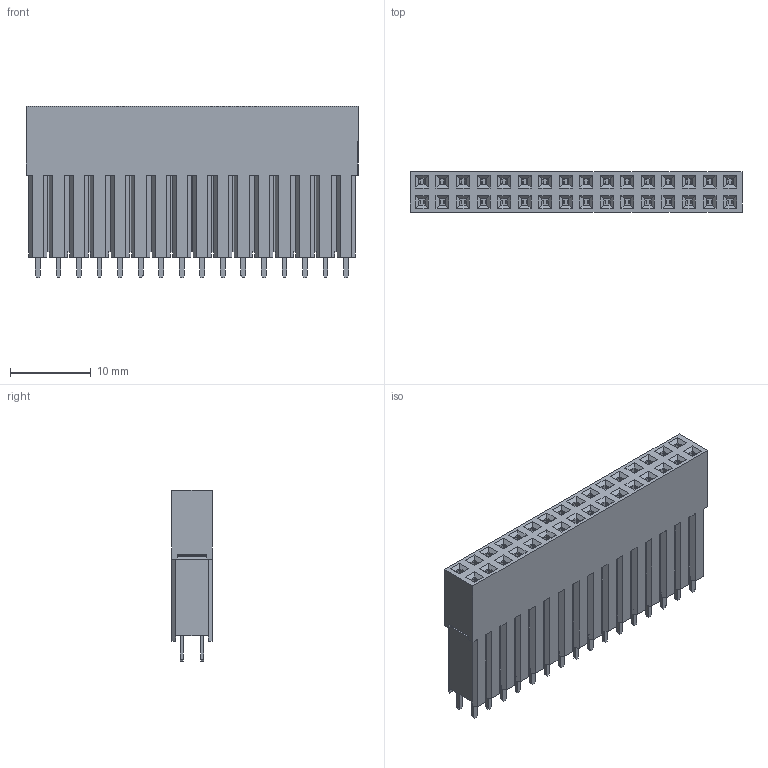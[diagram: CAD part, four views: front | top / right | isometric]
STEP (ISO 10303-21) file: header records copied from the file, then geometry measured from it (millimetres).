
FILE_DESCRIPTION (( 'STEP AP214' ), '1' );
FILE_NAME ('2047-2X16G00S12U.STEP', '2020-04-24T08:15:05', ( '' ), ( '' ), 'SwSTEP 2.0', 'SolidWorks 2011', '' );
FILE_SCHEMA (( 'AUTOMOTIVE_DESIGN' ));
Length unit declared in the file: millimetre
Products named in the file (1): 2047-2X16G00S12U
Bounding box: 41.04 x 5 x 21.17 mm (x, y, z)
Volume: 3431.9 mm3; surface area: 3323.3 mm2
Topology: 1 solids, 1 shells, 2057 faces, 5382 edges, 3500 vertices
Faces by surface type: plane 1865, cylinder 192
Entity records: 61972 total; most frequent: CARTESIAN_POINT 10940, ORIENTED_EDGE 10764, DIRECTION 9882, EDGE_CURVE 5382, LINE 4998, VECTOR 4998, VERTEX_POINT 3500, AXIS2_PLACEMENT_3D 2442
